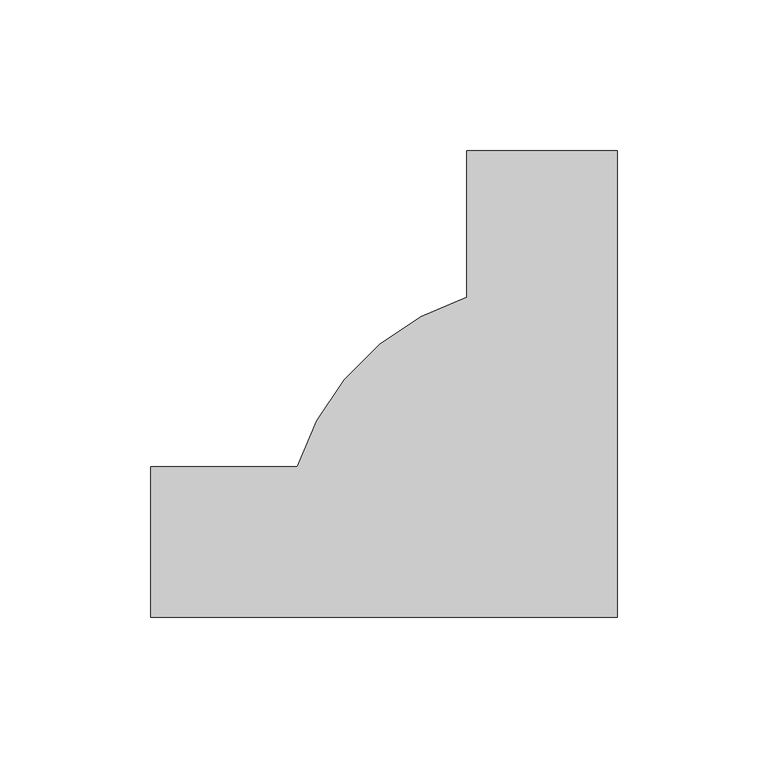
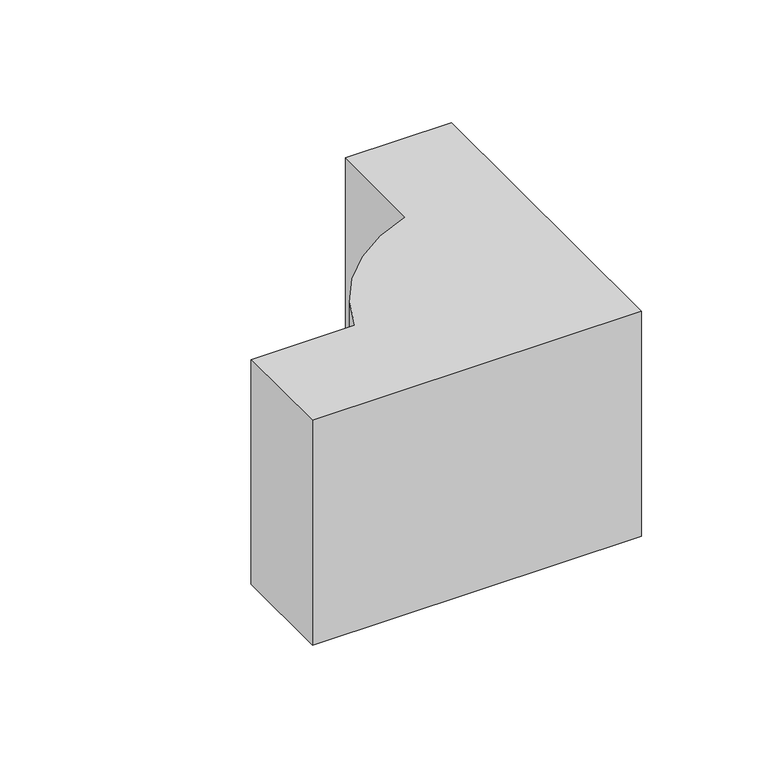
"""IFC4 building model written with IfcOpenShell, lengths in millimetres: duct fitting geometry, КНС_УголВнутренний_DKC : Угол внутренний."""

from ifc_helpers import new_model, si_unit, point, frame, origin, origin_2d, place, context, project, spatial, polyline, circle_curve, trimmed, segment, composite_curve, outline, extrude, source, transform, mapped, element, save


def duct_fitting_54a57bb6(model_context):
    return source(origin(), model_context, "Body", "SweptSolid", [
        extrude(outline(composite_curve([segment(polyline([(-130.0, -25.0), (-130.0, 25.0), (-81.240384, 25.0)]), True, "CONTINUOUS"), segment(trimmed(circle_curve(origin_2d(), 85.0), [point((-81.240384, 25.0))], [point((-25.0, 81.240384))], False, "CARTESIAN"), True, "CONTINUOUS"), segment(polyline([(-25.0, 81.240384), (-25.0, 130.0), (25.0, 130.0), (25.0, -25.0), (-130.0, -25.0)]), True, "CONTINUOUS")], self_intersect=False)), frame((0.0, 0.0, -56.0), z_axis=(0.0, 0.0, 1.0), x_axis=(1.0, 0.0, 0.0)), (0.0, 0.0, 1.0), 112.0),
    ])


if __name__ == "__main__":
    model = new_model("IFC4")
    model_context = context("Model", 3, world=origin())
    ifc_project = project(units=[si_unit("LENGTHUNIT", "METRE", prefix="MILLI")], contexts=[model_context])
    site = spatial("IfcSite", under=ifc_project)
    building = spatial("IfcBuilding", under=site)
    placement = place(None, origin())
    duct_fitting_shape = duct_fitting_54a57bb6(model_context)
    element("IfcDuctFitting", 1, ObjectType="КНС_УголВнутренний_DKC : Угол внутренний", at=placement, inside=building, context=model_context, shape_type="MappedRepresentation", body=[
        mapped(duct_fitting_shape, transform((0.0, 0.0, 0.0), x_axis=(1.0, 0.0, 0.0), y_axis=(0.0, 1.0, 0.0), z_axis=(0.0, 0.0, 1.0))),
    ])
    save(model, "model.ifc")
